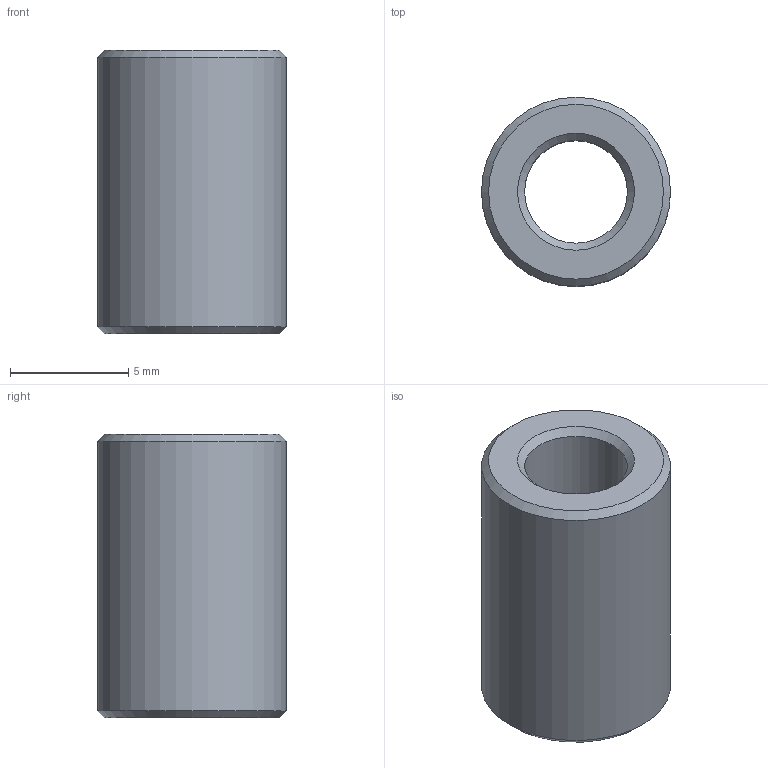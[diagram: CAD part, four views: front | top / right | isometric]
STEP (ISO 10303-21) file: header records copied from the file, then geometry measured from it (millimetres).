
FILE_DESCRIPTION(('Open CASCADE Model'),'2;1');
FILE_NAME('Open CASCADE Shape Model','2026-11-05T10:33:08',('Author'),( 'Open CASCADE'),'Open CASCADE STEP processor 8.0','build123d', 'Unknown');
FILE_SCHEMA(('AUTOMOTIVE_DESIGN { 1 0 10303 214 1 1 1 1 }'));
Length unit declared in the file: millimetre
Products named in the file (1): COMPOUND
Bounding box: 8 x 8 x 12 mm (x, y, z)
Volume: 421.4 mm3; surface area: 522.8 mm2
Topology: 1 solids, 1 shells, 8 faces, 14 edges, 8 vertices
Faces by surface type: cone 4, cylinder 2, plane 2
Full cylindrical faces by diameter (mm): 4.35 x1, 8 x1
Entity records: 382 total; most frequent: CARTESIAN_POINT 67, DIRECTION 60, ORIENTED_EDGE 28, PCURVE 28, DEFINITIONAL_REPRESENTATION 28, LINE 22, VECTOR 22, AXIS2_PLACEMENT_3D 17
